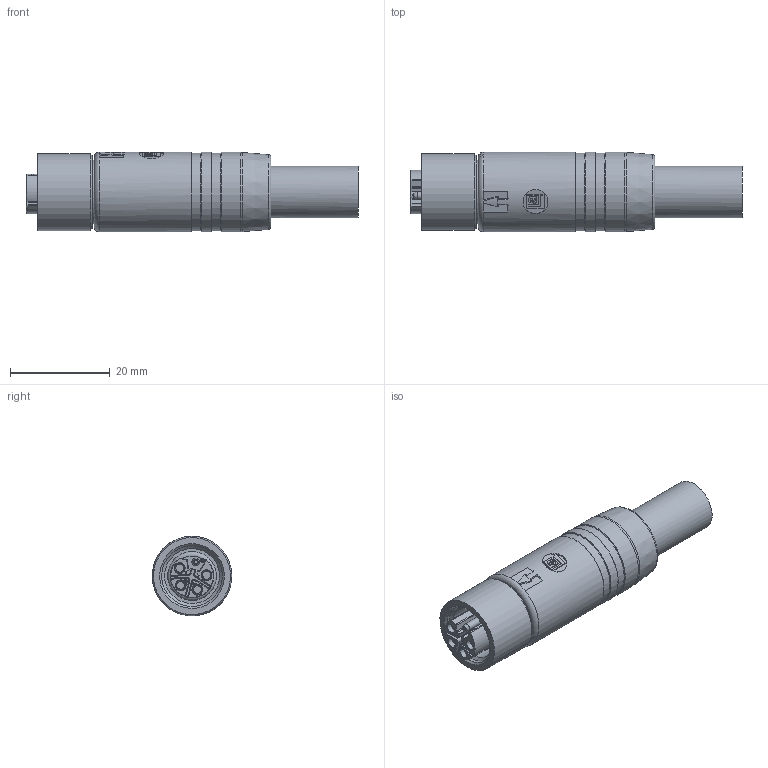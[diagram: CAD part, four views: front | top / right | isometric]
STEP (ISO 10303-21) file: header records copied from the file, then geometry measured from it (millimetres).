
FILE_DESCRIPTION( ( 'Unknown' ), '1' );
FILE_NAME( 'C:/caxtemp/934-849-999_0_1_000191620DNR_RKT_S__5L____M.stp', 'Unknown', ( 'Unknown' ), ( 'Unknown' ), 'PSStep 17.0.49', 'Unknown', ' ' );
FILE_SCHEMA( ( 'AUTOMOTIVE_DESIGN { 1 0 10303 214 1 1 1 1 }' ) );
Length unit declared in the file: millimetre
Products named in the file (1): 000-062-C12_0_1_000116998DNR
Bounding box: 66.72 x 15.99 x 15.97 mm (x, y, z)
Volume: 10311.5 mm3; surface area: 4140.4 mm2
Topology: 1 solids, 1 shells, 294 faces, 708 edges, 434 vertices
Faces by surface type: plane 126, cylinder 72, torus 58, extrusion 15, bspline 14, cone 9
Full cylindrical faces by diameter (mm): 1.5 x1, 1.6 x4, 10.4 x1, 11.05 x1, 11.5 x1, 12 x1, 12.2 x1, 12.9 x1, 15.5 x1, 15.6 x2, 16 x3
Entity records: 12030 total; most frequent: CARTESIAN_POINT 3195, DIRECTION 1348, ORIENTED_EDGE 1262, EDGE_CURVE 631, AXIS2_PLACEMENT_3D 499, VERTEX_POINT 414, EDGE_LOOP 368, VECTOR 350
